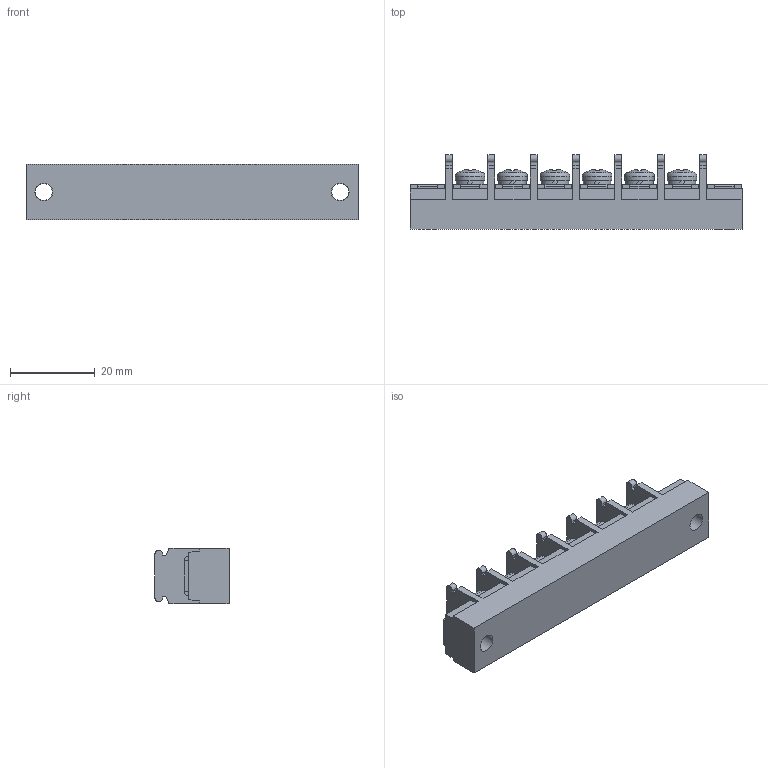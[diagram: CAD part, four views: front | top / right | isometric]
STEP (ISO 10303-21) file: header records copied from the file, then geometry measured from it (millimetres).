
FILE_DESCRIPTION(/* description */ ('Alibre Inc.'),/* implementation_level */ '2;1');
FILE_NAME(/* name */ 'export0',/* time_stamp */ '2015-10-17T18:42:18+09:00',/* author */ (''),/* organization */ (''),/* preprocessor_version */ 'ST-DEVELOPER v14',/* originating_system */ 'Alibre',/* authorisation */ '');
FILE_SCHEMA (('CONFIG_CONTROL_DESIGN'));
Length unit declared in the file: centimetre
Products named in the file (1): ID_1
Bounding box: 78.4 x 17.5 x 13 mm (x, y, z)
Volume: 11342.6 mm3; surface area: 6567.8 mm2
Topology: 1 solids, 17 shells, 788 faces, 2138 edges, 1420 vertices
Faces by surface type: plane 590, bspline 104, cylinder 52, cone 24, torus 12, sphere 6
Full cylindrical faces by diameter (mm): 4 x8, 4.2 x2, 6.5 x6, 7 x6
Entity records: 23999 total; most frequent: CARTESIAN_POINT 5405, ORIENTED_EDGE 4180, DIRECTION 2890, EDGE_CURVE 2090, VECTOR 1562, LINE 1562, VERTEX_POINT 1400, AXIS2_PLACEMENT_3D 955
